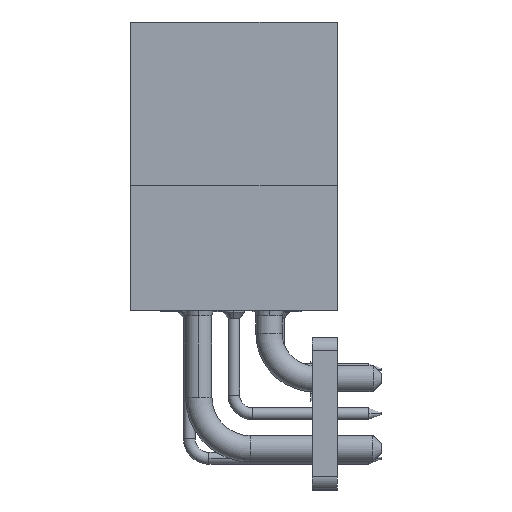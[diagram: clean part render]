
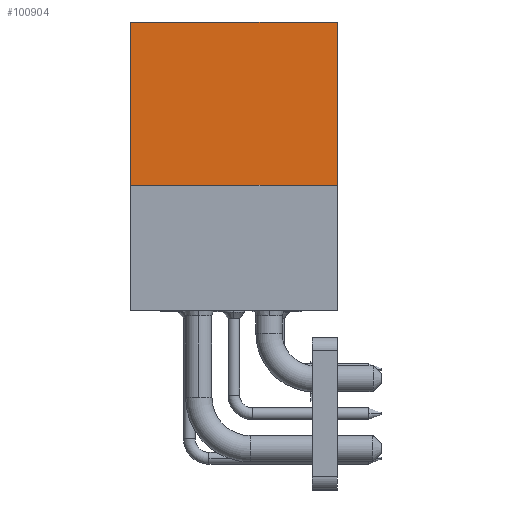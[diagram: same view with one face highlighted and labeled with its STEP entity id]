
A CAD part, left-side view. The second image highlights one B-rep face of the part: STEP entity #100904.
In plain terms, the highlighted planar face has unit normal (-1, 0, 0).
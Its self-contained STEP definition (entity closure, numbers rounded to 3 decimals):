
#4745 = ORIENTED_EDGE ( 'NONE', *, *, #117955, .F. ) ;
#8186 = DIRECTION ( 'NONE',  ( 0., 0., -1. ) ) ;
#8194 = VECTOR ( 'NONE', #114396, 1000. ) ;
#11515 = VERTEX_POINT ( 'NONE', #146050 ) ;
#11762 = CARTESIAN_POINT ( 'NONE',  ( -31.22, -6.27, 17.49 ) ) ;
#25802 = LINE ( 'NONE', #11762, #118793 ) ;
#33304 = ORIENTED_EDGE ( 'NONE', *, *, #121714, .F. ) ;
#41893 = LINE ( 'NONE', #126599, #8194 ) ;
#54275 = VERTEX_POINT ( 'NONE', #82039 ) ;
#56951 = DIRECTION ( 'NONE',  ( 0., -1., 0. ) ) ;
#66912 = ORIENTED_EDGE ( 'NONE', *, *, #114437, .T. ) ;
#68086 = VERTEX_POINT ( 'NONE', #101648 ) ;
#80354 = CARTESIAN_POINT ( 'NONE',  ( -31.22, 6.27, 17.49 ) ) ;
#82039 = CARTESIAN_POINT ( 'NONE',  ( -31.22, -6.27, 17.49 ) ) ;
#83958 = DIRECTION ( 'NONE',  ( 1., 0., 0. ) ) ;
#86991 = AXIS2_PLACEMENT_3D ( 'NONE', #108846, #83958, #8186 ) ;
#93658 = EDGE_CURVE ( 'NONE', #11515, #68086, #158696, .T. ) ;
#100904 = ADVANCED_FACE ( 'NONE', ( #137130 ), #159707, .F. ) ;
#101648 = CARTESIAN_POINT ( 'NONE',  ( -31.22, -6.27, 7.6 ) ) ;
#101735 = EDGE_LOOP ( 'NONE', ( #66912, #4745, #33304, #155366 ) ) ;
#102166 = LINE ( 'NONE', #80354, #135854 ) ;
#108846 = CARTESIAN_POINT ( 'NONE',  ( -31.22, 6.27, 17.49 ) ) ;
#111469 = CARTESIAN_POINT ( 'NONE',  ( -31.22, 6.27, 17.49 ) ) ;
#114396 = DIRECTION ( 'NONE',  ( 0., 0., 1. ) ) ;
#114437 = EDGE_CURVE ( 'NONE', #68086, #54275, #25802, .T. ) ;
#117955 = EDGE_CURVE ( 'NONE', #137206, #54275, #102166, .T. ) ;
#118793 = VECTOR ( 'NONE', #138510, 1000. ) ;
#121714 = EDGE_CURVE ( 'NONE', #11515, #137206, #41893, .T. ) ;
#125071 = VECTOR ( 'NONE', #147036, 1000. ) ;
#126599 = CARTESIAN_POINT ( 'NONE',  ( -31.22, 6.27, 17.49 ) ) ;
#134344 = CARTESIAN_POINT ( 'NONE',  ( -31.22, 6.27, 7.6 ) ) ;
#135854 = VECTOR ( 'NONE', #56951, 1000. ) ;
#137130 = FACE_OUTER_BOUND ( 'NONE', #101735, .T. ) ;
#137206 = VERTEX_POINT ( 'NONE', #111469 ) ;
#138510 = DIRECTION ( 'NONE',  ( 0., 0., 1. ) ) ;
#146050 = CARTESIAN_POINT ( 'NONE',  ( -31.22, 6.27, 7.6 ) ) ;
#147036 = DIRECTION ( 'NONE',  ( 0., -1., 0. ) ) ;
#155366 = ORIENTED_EDGE ( 'NONE', *, *, #93658, .T. ) ;
#158696 = LINE ( 'NONE', #134344, #125071 ) ;
#159707 = PLANE ( 'NONE',  #86991 ) ;
